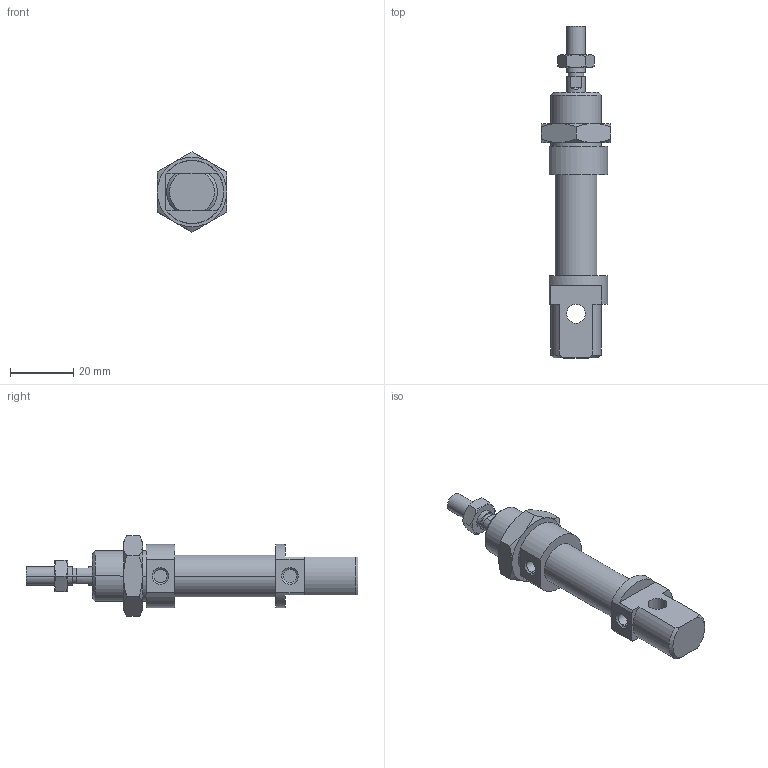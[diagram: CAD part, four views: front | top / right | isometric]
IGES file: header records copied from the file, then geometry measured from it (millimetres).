
Global section: file name: No Iges File Name specified; native system: Autodesk Inventor 2010; preprocessor: AutoDesk Inventor Iges Exporter R2010; author: rivolro1; date: 20090604.093107; units: millimetre
Bounding box: 22 x 105 x 25.4 mm (x, y, z)
Volume: 17431.3 mm3; surface area: 8205.3 mm2
Topology: 4 solids, 4 shells, 107 faces, 236 edges, 144 vertices
Faces by surface type: plane 39, cone 28, bspline 20, cylinder 14, revolution 6
